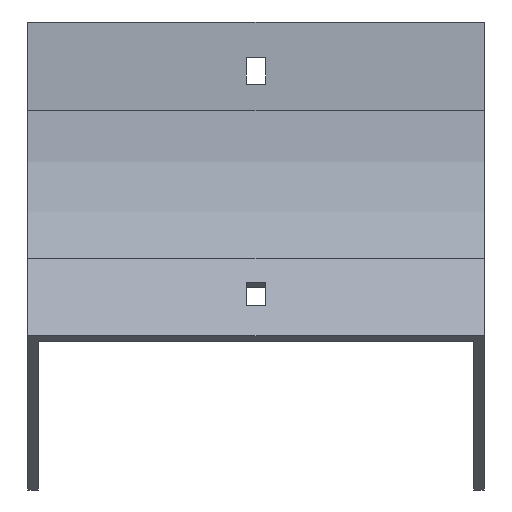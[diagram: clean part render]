
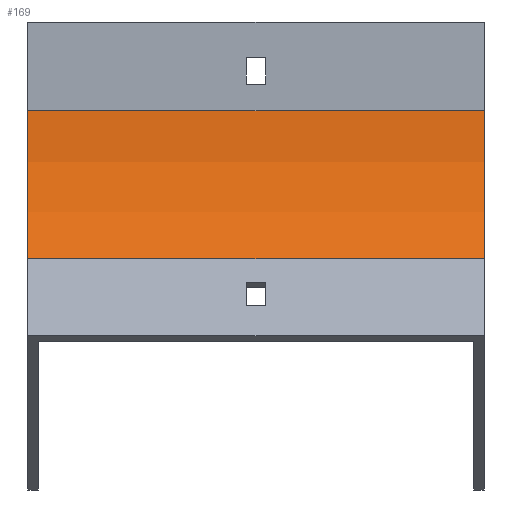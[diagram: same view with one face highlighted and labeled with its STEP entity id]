
A CAD part, front view. The second image highlights one B-rep face of the part: STEP entity #169.
In plain terms, the highlighted cylindrical face has radius 100 mm (diameter 200 mm), a partial arc.
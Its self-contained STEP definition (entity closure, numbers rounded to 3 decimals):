
#34 = VECTOR ( 'NONE', #1484, 1000. ) ;
#82 = CARTESIAN_POINT ( 'NONE',  ( 77., -100., -30. ) ) ;
#86 = VECTOR ( 'NONE', #1025, 1000. ) ;
#131 = VERTEX_POINT ( 'NONE', #823 ) ;
#169 = ADVANCED_FACE ( 'NONE', ( #830 ), #1435, .F. ) ;
#177 = DIRECTION ( 'NONE',  ( -1., 0., 0. ) ) ;
#186 = DIRECTION ( 'NONE',  ( 0., 0., 1. ) ) ;
#265 = EDGE_CURVE ( 'NONE', #958, #914, #1165, .T. ) ;
#390 = CARTESIAN_POINT ( 'NONE',  ( -77., -13.397, -80. ) ) ;
#415 = CARTESIAN_POINT ( 'NONE',  ( 77., 0., -30. ) ) ;
#557 = LINE ( 'NONE', #415, #86 ) ;
#623 = AXIS2_PLACEMENT_3D ( 'NONE', #1376, #177, #186 ) ;
#626 = EDGE_CURVE ( 'NONE', #696, #914, #1934, .T. ) ;
#696 = VERTEX_POINT ( 'NONE', #717 ) ;
#717 = CARTESIAN_POINT ( 'NONE',  ( -77., 0., -30. ) ) ;
#738 = EDGE_CURVE ( 'NONE', #131, #958, #1897, .T. ) ;
#823 = CARTESIAN_POINT ( 'NONE',  ( 77., 0., -30. ) ) ;
#830 = FACE_OUTER_BOUND ( 'NONE', #1842, .T. ) ;
#857 = CARTESIAN_POINT ( 'NONE',  ( 77., -13.397, -80. ) ) ;
#914 = VERTEX_POINT ( 'NONE', #390 ) ;
#958 = VERTEX_POINT ( 'NONE', #980 ) ;
#980 = CARTESIAN_POINT ( 'NONE',  ( 77., -13.397, -80. ) ) ;
#998 = ORIENTED_EDGE ( 'NONE', *, *, #738, .F. ) ;
#1025 = DIRECTION ( 'NONE',  ( -1., 0., 0. ) ) ;
#1152 = DIRECTION ( 'NONE',  ( -1., 0., 0. ) ) ;
#1165 = LINE ( 'NONE', #857, #34 ) ;
#1207 = ORIENTED_EDGE ( 'NONE', *, *, #626, .T. ) ;
#1300 = DIRECTION ( 'NONE',  ( 0., 0., 1. ) ) ;
#1376 = CARTESIAN_POINT ( 'NONE',  ( 77., -100., -30. ) ) ;
#1383 = AXIS2_PLACEMENT_3D ( 'NONE', #82, #1875, #1300 ) ;
#1435 = CYLINDRICAL_SURFACE ( 'NONE', #1383, 100. ) ;
#1484 = DIRECTION ( 'NONE',  ( -1., 0., 0. ) ) ;
#1512 = EDGE_CURVE ( 'NONE', #131, #696, #557, .T. ) ;
#1608 = CARTESIAN_POINT ( 'NONE',  ( -77., -100., -30. ) ) ;
#1654 = AXIS2_PLACEMENT_3D ( 'NONE', #1608, #1152, #1733 ) ;
#1719 = ORIENTED_EDGE ( 'NONE', *, *, #1512, .T. ) ;
#1733 = DIRECTION ( 'NONE',  ( 0., 0., 1. ) ) ;
#1785 = ORIENTED_EDGE ( 'NONE', *, *, #265, .F. ) ;
#1842 = EDGE_LOOP ( 'NONE', ( #1207, #1785, #998, #1719 ) ) ;
#1875 = DIRECTION ( 'NONE',  ( -1., 0., 0. ) ) ;
#1897 = CIRCLE ( 'NONE', #623, 100. ) ;
#1934 = CIRCLE ( 'NONE', #1654, 100. ) ;
